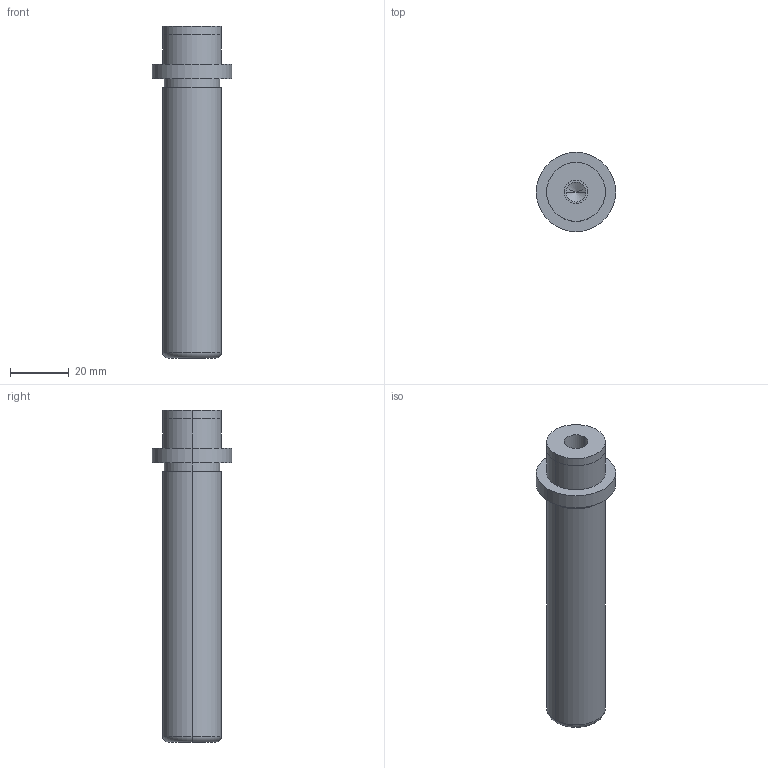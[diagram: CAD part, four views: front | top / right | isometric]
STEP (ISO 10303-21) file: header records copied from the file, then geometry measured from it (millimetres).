
FILE_DESCRIPTION(/* description */ (''),/* implementation_level */ '2;1');
FILE_NAME(/* name */ '3d_sgpw20-100_05259_r00.stp',/* time_stamp */ '2011-01-10T14:11:04+09:00',/* author */ ('MISUMI'),/* organization */ (''),/* preprocessor_version */ 'ST-DEVELOPER v11',/* originating_system */ 'UGS - NX 5.0',/* authorisation */ '');
FILE_SCHEMA (('CONFIG_CONTROL_DESIGN'));
Length unit declared in the file: millimetre
Products named in the file (1): 3d_sgpw20-100_05259_r00
Bounding box: 27 x 27 x 113 mm (x, y, z)
Volume: 34646.2 mm3; surface area: 9352.7 mm2
Topology: 1 solids, 1 shells, 31 faces, 64 edges, 38 vertices
Faces by surface type: cylinder 18, plane 7, cone 4, torus 2
Entity records: 890 total; most frequent: DIRECTION 162, CARTESIAN_POINT 130, ORIENTED_EDGE 120, AXIS2_PLACEMENT_3D 70, EDGE_CURVE 60, EDGE_LOOP 38, CIRCLE 38, VERTEX_POINT 38
